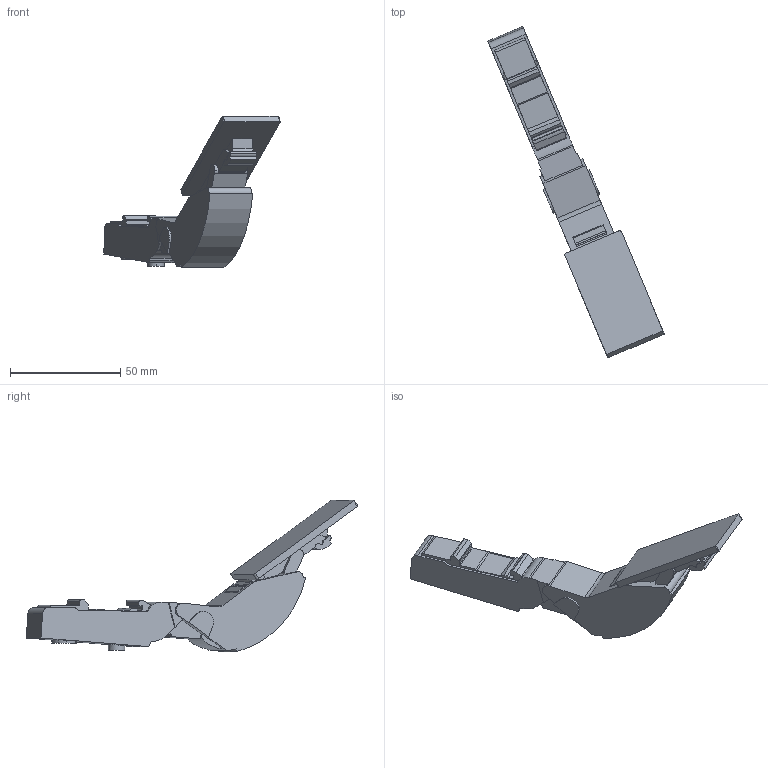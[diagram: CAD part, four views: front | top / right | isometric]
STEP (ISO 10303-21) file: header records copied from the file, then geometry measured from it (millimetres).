
FILE_DESCRIPTION (( 'STEP AP203' ), '1' );
FILE_NAME ('C80A689F﹛open.STEP', '2020-02-12T01:18:32', ( 'Windows 蚚誧' ), ( '' ), 'SwSTEP 2.0', 'SolidWorks 2012', '' );
FILE_SCHEMA (( 'CONFIG_CONTROL_DESIGN' ));
Length unit declared in the file: millimetre
Products named in the file (1): C80A689F﹛open
Bounding box: 79.93 x 150.25 x 68.58 mm (x, y, z)
Surface area: 15000.3 mm2 (no closed solid volume)
Topology: 0 solids, 3 shells, 212 faces, 624 edges, 419 vertices
Faces by surface type: plane 111, cylinder 95, bspline 6
Entity records: 8016 total; most frequent: CARTESIAN_POINT 2480, ORIENTED_EDGE 1244, DIRECTION 1007, EDGE_CURVE 624, VERTEX_POINT 419, LINE 379, VECTOR 379, AXIS2_PLACEMENT_3D 314
